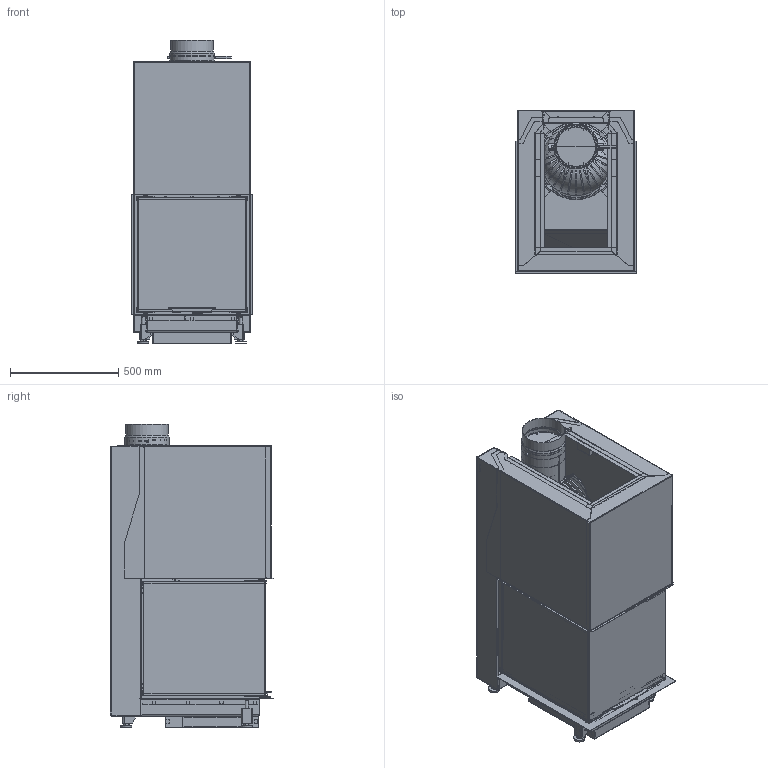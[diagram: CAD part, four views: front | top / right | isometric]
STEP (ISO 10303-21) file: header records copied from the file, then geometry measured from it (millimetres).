
FILE_DESCRIPTION(/* description */ (''),/* implementation_level */ '2;1');
FILE_NAME(/* name */ 'C:\ADSK_DM_WS\CAD_3D\03 Geraete\RIII 55x56x60\Zeichnungen\RIII 55x56x60 Gen.2 ohne Mantel Abgang oben CAD Planung defriten 2021-03270 211124.stp',/* time_stamp */ '2021-11-24T13:23:33+01:00',/* author */ ('CPI'),/* organization */ (''),/* preprocessor_version */ 'ST-DEVELOPER v18.1',/* originating_system */ 'Autodesk Inventor 2022',/* authorisation */ '');
FILE_SCHEMA (('AUTOMOTIVE_DESIGN { 1 0 10303 214 3 1 1 }'));
Products named in the file (8): 2021-03270; 2021-03268; 2021-03266; 2021-03264; 2021-03260; 2021-03174; 2021-03176; 2018-00985
Assembly tree (7 placements, depth 2):
  2021-03270
    2021-03268
    2021-03266
    2021-03264
    2021-03260
    2021-03174
    2021-03176
    2018-00985
Bounding box: 560 x 752 x 1399 mm (x, y, z)
Volume: 23317919.4 mm3; surface area: 16954313.7 mm2
Topology: 17 solids, 32 shells, 7731 faces, 21394 edges, 13466 vertices
Faces by surface type: plane 4645, cylinder 2694, bspline 237, cone 97, torus 57, sphere 1
Full cylindrical faces by diameter (mm): 3.242 x6, 4.8 x1, 6 x3, 7.9 x2, 8 x8, 10 x6, 10.21 x4, 12 x4, 16 x10, 18 x4, 20 x4, 30 x4, 163 x1, 194 x1, 198 x1, 200 x1, 204 x1, 333 x1, 339 x1
Entity records: 259458 total; most frequent: CARTESIAN_POINT 55123, ORIENTED_EDGE 42722, DIRECTION 41799, EDGE_CURVE 21418, LINE 14175, VECTOR 14175, AXIS2_PLACEMENT_3D 13812, VERTEX_POINT 13469
